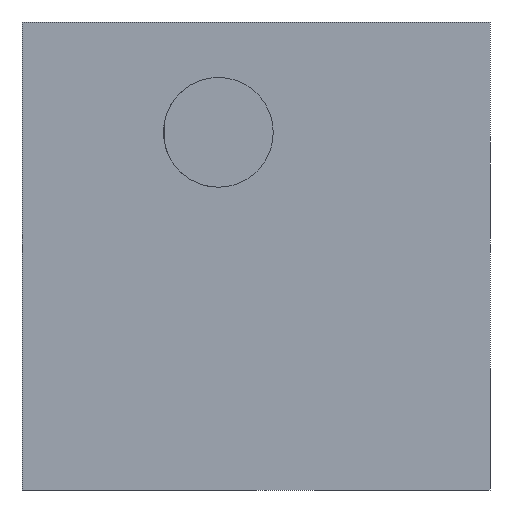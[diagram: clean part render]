
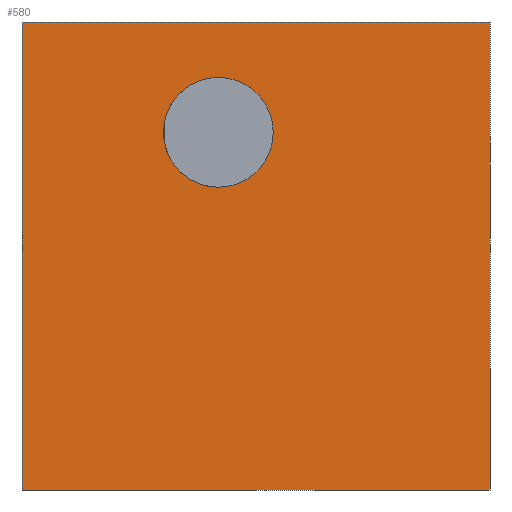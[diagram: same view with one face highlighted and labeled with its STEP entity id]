
A CAD part, left-side view. The second image highlights one B-rep face of the part: STEP entity #580.
In plain terms, the highlighted planar face has unit normal (-1, 0, 0).
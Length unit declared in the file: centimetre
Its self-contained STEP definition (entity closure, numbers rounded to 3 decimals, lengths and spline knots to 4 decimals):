
#23 = CARTESIAN_POINT ( 'NONE',  ( 0., 1000., 1000. ) ) ;
#29 = PLANE ( 'NONE',  #856 ) ;
#37 = VECTOR ( 'NONE', #345, 100. ) ;
#47 = LINE ( 'NONE', #937, #93 ) ;
#48 = AXIS2_PLACEMENT_3D ( 'NONE', #933, #271, #717 ) ;
#93 = VECTOR ( 'NONE', #623, 100. ) ;
#109 = ORIENTED_EDGE ( 'NONE', *, *, #233, .T. ) ;
#111 = DIRECTION ( 'NONE',  ( 0., -1., 0. ) ) ;
#112 = VERTEX_POINT ( 'NONE', #966 ) ;
#131 = EDGE_CURVE ( 'NONE', #554, #464, #506, .T. ) ;
#132 = DIRECTION ( 'NONE',  ( 0., 0., 1. ) ) ;
#151 = CARTESIAN_POINT ( 'NONE',  ( 0., 0., 1000. ) ) ;
#163 = EDGE_LOOP ( 'NONE', ( #625, #387, #366, #109 ) ) ;
#184 = DIRECTION ( 'NONE',  ( 0., 0., -1. ) ) ;
#190 = CIRCLE ( 'NONE', #726, 117.3655 ) ;
#195 = ORIENTED_EDGE ( 'NONE', *, *, #839, .F. ) ;
#233 = EDGE_CURVE ( 'NONE', #682, #931, #47, .T. ) ;
#258 = EDGE_CURVE ( 'NONE', #682, #554, #871, .T. ) ;
#271 = DIRECTION ( 'NONE',  ( -1., 0., 0. ) ) ;
#305 = CIRCLE ( 'NONE', #48, 117.3655 ) ;
#314 = LINE ( 'NONE', #757, #641 ) ;
#345 = DIRECTION ( 'NONE',  ( 0., -1., 0. ) ) ;
#352 = VERTEX_POINT ( 'NONE', #888 ) ;
#366 = ORIENTED_EDGE ( 'NONE', *, *, #258, .F. ) ;
#368 = CARTESIAN_POINT ( 'NONE',  ( 0., 1000., 0. ) ) ;
#387 = ORIENTED_EDGE ( 'NONE', *, *, #131, .F. ) ;
#395 = EDGE_LOOP ( 'NONE', ( #195, #787 ) ) ;
#404 = DIRECTION ( 'NONE',  ( -1., 0., 0. ) ) ;
#421 = VECTOR ( 'NONE', #439, 100. ) ;
#439 = DIRECTION ( 'NONE',  ( 0., 0., -1. ) ) ;
#464 = VERTEX_POINT ( 'NONE', #508 ) ;
#466 = CARTESIAN_POINT ( 'NONE',  ( 0., 1000., 1000. ) ) ;
#506 = LINE ( 'NONE', #151, #421 ) ;
#508 = CARTESIAN_POINT ( 'NONE',  ( 0., 0., 0. ) ) ;
#531 = DIRECTION ( 'NONE',  ( 1., 0., 0. ) ) ;
#554 = VERTEX_POINT ( 'NONE', #751 ) ;
#580 = ADVANCED_FACE ( 'NONE', ( #848, #696 ), #29, .F. ) ;
#623 = DIRECTION ( 'NONE',  ( 0., 0., -1. ) ) ;
#625 = ORIENTED_EDGE ( 'NONE', *, *, #636, .T. ) ;
#636 = EDGE_CURVE ( 'NONE', #931, #464, #314, .T. ) ;
#641 = VECTOR ( 'NONE', #111, 100. ) ;
#682 = VERTEX_POINT ( 'NONE', #23 ) ;
#696 = FACE_OUTER_BOUND ( 'NONE', #163, .T. ) ;
#717 = DIRECTION ( 'NONE',  ( 0., 0., 1. ) ) ;
#726 = AXIS2_PLACEMENT_3D ( 'NONE', #869, #404, #132 ) ;
#751 = CARTESIAN_POINT ( 'NONE',  ( 0., 0., 1000. ) ) ;
#757 = CARTESIAN_POINT ( 'NONE',  ( 0., 1000., 0. ) ) ;
#787 = ORIENTED_EDGE ( 'NONE', *, *, #863, .F. ) ;
#790 = CARTESIAN_POINT ( 'NONE',  ( 0., 1000., 1000. ) ) ;
#839 = EDGE_CURVE ( 'NONE', #352, #112, #190, .T. ) ;
#848 = FACE_BOUND ( 'NONE', #395, .T. ) ;
#856 = AXIS2_PLACEMENT_3D ( 'NONE', #466, #531, #184 ) ;
#863 = EDGE_CURVE ( 'NONE', #112, #352, #305, .T. ) ;
#869 = CARTESIAN_POINT ( 'NONE',  ( 0., 580.4973, 764.2457 ) ) ;
#871 = LINE ( 'NONE', #790, #37 ) ;
#888 = CARTESIAN_POINT ( 'NONE',  ( 0., 580.4973, 881.6111 ) ) ;
#931 = VERTEX_POINT ( 'NONE', #368 ) ;
#933 = CARTESIAN_POINT ( 'NONE',  ( 0., 580.4973, 764.2457 ) ) ;
#937 = CARTESIAN_POINT ( 'NONE',  ( 0., 1000., 1000. ) ) ;
#966 = CARTESIAN_POINT ( 'NONE',  ( 0., 580.4973, 646.8802 ) ) ;
